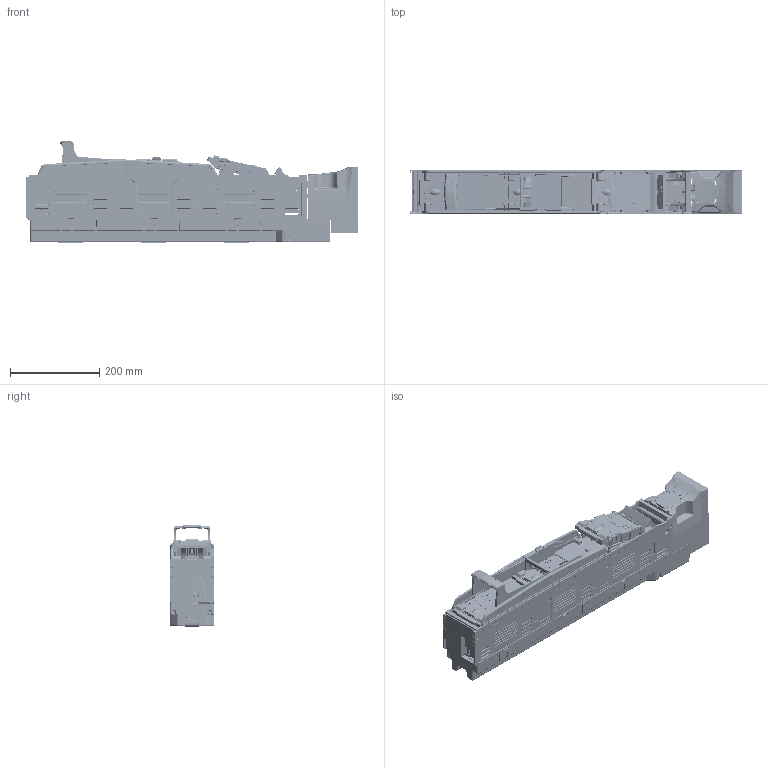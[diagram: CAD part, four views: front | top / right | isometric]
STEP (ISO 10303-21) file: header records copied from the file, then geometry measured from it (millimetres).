
FILE_DESCRIPTION((''),'2;1');
FILE_NAME('NH51-630_ASM','2019-08-16T',('zhuanghy'),(''),'PRO/ENGINEER BY PARAMETRIC TECHNOLOGY CORPORATION, 2008380','PRO/ENGINEER BY PARAMETRIC TECHNOLOGY CORPORATION, 2008380','');
FILE_SCHEMA(('CONFIG_CONTROL_DESIGN'));
Length unit declared in the file: millimetre
Products named in the file (76): 17-06-02_1_1_1; 17-06-02_2_1_1; 17-06-02_3_1_1; 17-06-02_4_1_1; 17-06-02_5_1_1; 17-06-02_6_1_1; 17-06-02_7_1_1; 17-06-02_8_1_1; 17-06-02_9_1_1; 17-06-02_10_1_1; 17-06-02_11_1_1; 17-06-02_12_1_1; 17-06-02_13_1_1; 17-06-02_14_1_1; 17-06-02_15_1_1; 17-06-02_16_1_1; 17-06-02_17_1_1; 17-06-02_18_1_1; 17-06-02_19_1_1; 17-06-02_20_1_1; 17-06-02_21_1_1; 17-06-02_22_1_1; 17-06-02_23_1_1; 17-06-02_24_1_1; 17-06-02_25_1_1; 17-06-02_26_1_1; 17-06-02_27_1_1; 17-06-02_28_1_1; MANIFOLD_SOLID_BREP_287610; MANIFOLD_SOLID_BREP_287720; _17-06-02_29_1_1; 17-06-02_29_1_1_ASM; BREP_WITH_VOIDS_513466; MANIFOLD_SOLID_BREP_513576; 17-06-02_30_1_1_ASM; 17-06-02_31_1_1; 17-06-02_32_1_1; 17-06-02_33_1_1; 17-06-02_34_1_1; 17-06-02_35_1_1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
Assembly tree (75 placements, depth 6):
  NH51-630_ASM
    RT40-_ASM_1_ASM
      NHRT_ASM_1_ASM_1_ASM
        17-06-02_ASM_1_ASM_1_ASM
          17-06-02_1_1_1
          17-06-02_2_1_1
          17-06-02_3_1_1
          17-06-02_4_1_1
          17-06-02_5_1_1
          17-06-02_6_1_1
          17-06-02_7_1_1
          17-06-02_8_1_1
          17-06-02_9_1_1
          17-06-02_10_1_1
          17-06-02_11_1_1
          17-06-02_12_1_1
          17-06-02_13_1_1
          17-06-02_14_1_1
          17-06-02_15_1_1
          17-06-02_16_1_1
          17-06-02_17_1_1
          17-06-02_18_1_1
          17-06-02_19_1_1
          17-06-02_20_1_1
          17-06-02_21_1_1
          17-06-02_22_1_1
          17-06-02_23_1_1
          17-06-02_24_1_1
          17-06-02_25_1_1
          17-06-02_26_1_1
          17-06-02_27_1_1
          17-06-02_28_1_1
          17-06-02_29_1_1_ASM
            MANIFOLD_SOLID_BREP_287610
            MANIFOLD_SOLID_BREP_287720
            _17-06-02_29_1_1
          17-06-02_30_1_1_ASM
            BREP_WITH_VOIDS_513466
            MANIFOLD_SOLID_BREP_513576
          17-06-02_31_1_1
          17-06-02_32_1_1
          17-06-02_33_1_1
          17-06-02_34_1_1
          17-06-02_35_1_1
          17-06-02_36_1_1
          17-06-02_37_1_1
          17-06-02_38_1_1
          17-06-02_39_1_1
          17-06-02_40_1_1
          17-06-02_41_1_1
          17-06-02_42_1_1
          17-06-02_43_1_1
          17-06-02_44_1_1
          17-06-02_45_1_1
          17-06-02_46_1_1
          17-06-02_47_1_1
          17-06-02_48_1_1
          17-06-02_49_1_1
          17-06-02_50_1_1
          17-06-02_51_1_1
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Bounding box: 742.14 x 100.2 x 228 mm (x, y, z)
Volume: 7824198.3 mm3; surface area: 2084626.4 mm2
Topology: 70 solids, 85 shells, 24007 faces, 65110 edges, 40892 vertices
Faces by surface type: plane 9577, bspline 6772, cylinder 5990, cone 730, torus 483, sphere 305, extrusion 150
Entity records: 1021224 total; most frequent: CARTESIAN_POINT 487074, ORIENTED_EDGE 129421, DIRECTION 81503, EDGE_CURVE 64730, VERTEX_POINT 40892, VECTOR 31511, LINE 31361, B_SPLINE_CURVE_WITH_KNOTS 25835
